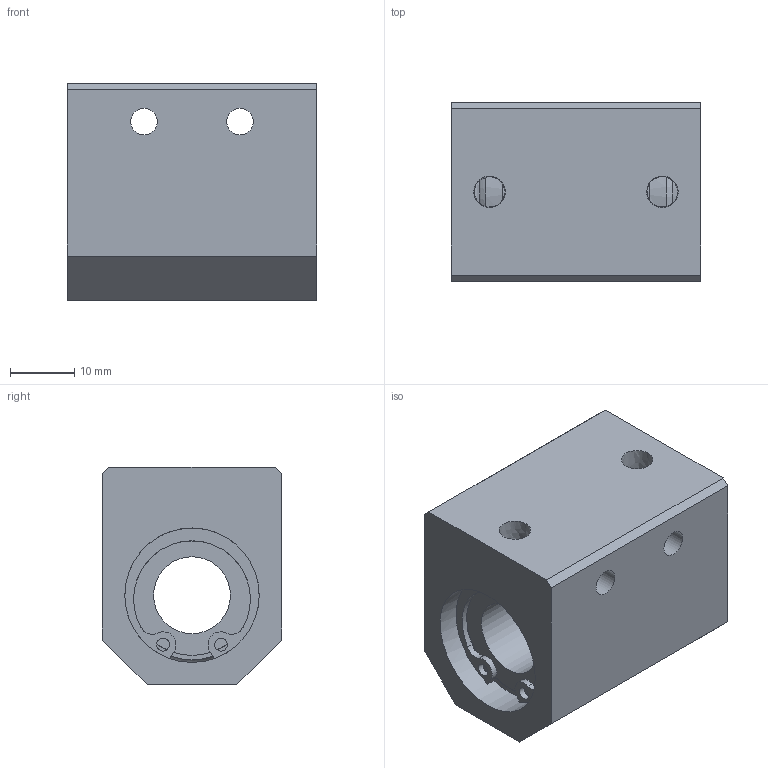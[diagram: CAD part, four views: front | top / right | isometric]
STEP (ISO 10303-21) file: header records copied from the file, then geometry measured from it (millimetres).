
FILE_DESCRIPTION((''),'2;1');
FILE_NAME('D:\製品 (図面)\カタログ用3D\リニアベアリング関連(改)\STEP形式\CH\CH12.stp','2010-01-25T09:33:28',('Tsuchiya'),(''),'Autodesk Inventor 10','Autodesk Inventor 10','');
FILE_SCHEMA(('AUTOMOTIVE_DESIGN { 1 0 10303 214 1 1 1 1 }'));
Length unit declared in the file: millimetre
Products named in the file (1): CH12
Bounding box: 39 x 28 x 34 mm (x, y, z)
Volume: 27127.1 mm3; surface area: 9786 mm2
Topology: 1 solids, 1 shells, 79 faces, 215 edges, 132 vertices
Faces by surface type: plane 33, bspline 23, cylinder 21, torus 2
Full cylindrical faces by diameter (mm): 2 x2, 12 x1, 18.8 x2, 20 x2, 21 x4
Entity records: 2584 total; most frequent: CARTESIAN_POINT 770, DIRECTION 374, ORIENTED_EDGE 352, EDGE_CURVE 176, AXIS2_PLACEMENT_3D 157, EDGE_LOOP 118, VERTEX_POINT 116, CIRCLE 102
